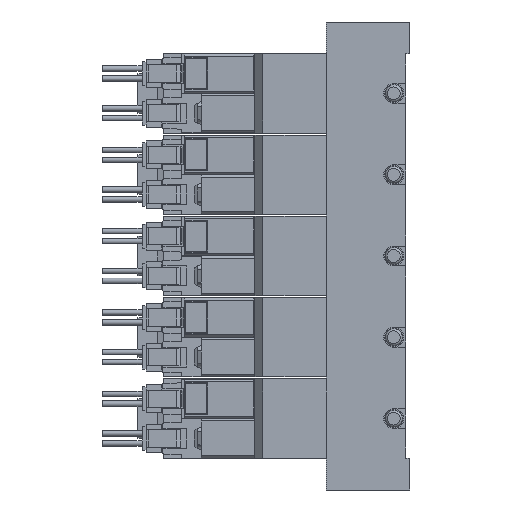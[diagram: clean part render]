
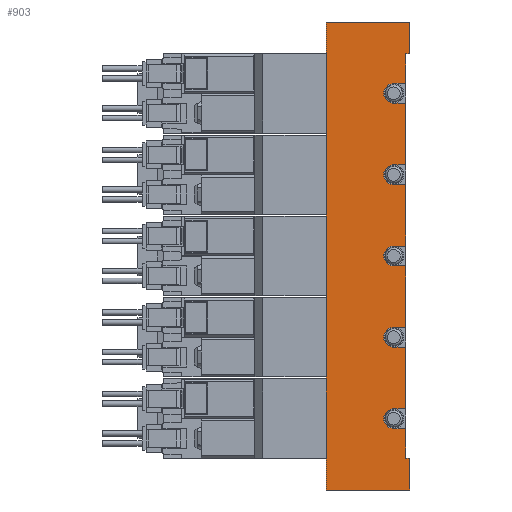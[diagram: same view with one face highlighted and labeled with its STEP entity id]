
A CAD part, left-side view. The second image highlights one B-rep face of the part: STEP entity #903.
In plain terms, the highlighted planar face has unit normal (-1, 0, 0) as drawn and (1, 0, 0) by its records, which use the part's own axes.
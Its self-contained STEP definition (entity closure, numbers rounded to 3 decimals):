
#903=ADVANCED_FACE('',(#1914),#1915,.F.);
#1914=FACE_OUTER_BOUND('',#2991,.T.);
#1915=PLANE('',#2992);
#2991=EDGE_LOOP('',(#6532,#6533,#6534,#6535,#6536,#6537,#6538,#6539,#6540,#6541,#6542,#6543,#6544,#6545,#6546,#6547,#6548,#6549,#6550,#6551,#6552,#6553,#6554,#6555,#6556,#6557,#6558,#6559));
#2992=AXIS2_PLACEMENT_3D('',#6560,#6561,#6562);
#6532=ORIENTED_EDGE('',*,*,#7924,.T.);
#6533=ORIENTED_EDGE('',*,*,#7925,.T.);
#6534=ORIENTED_EDGE('',*,*,#7917,.F.);
#6535=ORIENTED_EDGE('',*,*,#7856,.F.);
#6536=ORIENTED_EDGE('',*,*,#7926,.T.);
#6537=ORIENTED_EDGE('',*,*,#7827,.T.);
#6538=ORIENTED_EDGE('',*,*,#7927,.T.);
#6539=ORIENTED_EDGE('',*,*,#7836,.F.);
#6540=ORIENTED_EDGE('',*,*,#7874,.F.);
#6541=ORIENTED_EDGE('',*,*,#7928,.F.);
#6542=ORIENTED_EDGE('',*,*,#7929,.T.);
#6543=ORIENTED_EDGE('',*,*,#7930,.F.);
#6544=ORIENTED_EDGE('',*,*,#7931,.F.);
#6545=ORIENTED_EDGE('',*,*,#7882,.F.);
#6546=ORIENTED_EDGE('',*,*,#7932,.T.);
#6547=ORIENTED_EDGE('',*,*,#7785,.F.);
#6548=ORIENTED_EDGE('',*,*,#7912,.F.);
#6549=ORIENTED_EDGE('',*,*,#7859,.F.);
#6550=ORIENTED_EDGE('',*,*,#7933,.T.);
#6551=ORIENTED_EDGE('',*,*,#7832,.F.);
#6552=ORIENTED_EDGE('',*,*,#7915,.F.);
#6553=ORIENTED_EDGE('',*,*,#7868,.F.);
#6554=ORIENTED_EDGE('',*,*,#7934,.T.);
#6555=ORIENTED_EDGE('',*,*,#7864,.F.);
#6556=ORIENTED_EDGE('',*,*,#7935,.F.);
#6557=ORIENTED_EDGE('',*,*,#7936,.F.);
#6558=ORIENTED_EDGE('',*,*,#7937,.T.);
#6559=ORIENTED_EDGE('',*,*,#7938,.T.);
#6560=CARTESIAN_POINT('',(17.5,1.0,59.0));
#6561=DIRECTION('',(-1.0,0.0,0.0));
#6562=DIRECTION('',(0.0,0.0,1.0));
#7785=EDGE_CURVE('',#9592,#9593,#9594,.T.);
#7827=EDGE_CURVE('',#9673,#9670,#9674,.T.);
#7832=EDGE_CURVE('',#9682,#9683,#9684,.T.);
#7836=EDGE_CURVE('',#9689,#9690,#9691,.T.);
#7856=EDGE_CURVE('',#9726,#9728,#9729,.T.);
#7859=EDGE_CURVE('',#9733,#9734,#9735,.T.);
#7864=EDGE_CURVE('',#9743,#9744,#9745,.T.);
#7868=EDGE_CURVE('',#9749,#9750,#9751,.T.);
#7874=EDGE_CURVE('',#9758,#9689,#9760,.T.);
#7882=EDGE_CURVE('',#9772,#9773,#9774,.T.);
#7912=EDGE_CURVE('',#9734,#9592,#9825,.T.);
#7915=EDGE_CURVE('',#9750,#9682,#9828,.T.);
#7917=EDGE_CURVE('',#9728,#9829,#9831,.T.);
#7924=EDGE_CURVE('',#9841,#9842,#9843,.T.);
#7925=EDGE_CURVE('',#9842,#9829,#9844,.T.);
#7926=EDGE_CURVE('',#9726,#9673,#9845,.T.);
#7927=EDGE_CURVE('',#9670,#9690,#9846,.T.);
#7928=EDGE_CURVE('',#9847,#9758,#9848,.T.);
#7929=EDGE_CURVE('',#9847,#9849,#9850,.T.);
#7930=EDGE_CURVE('',#9851,#9849,#9852,.T.);
#7931=EDGE_CURVE('',#9773,#9851,#9853,.T.);
#7932=EDGE_CURVE('',#9772,#9593,#9854,.T.);
#7933=EDGE_CURVE('',#9733,#9683,#9855,.T.);
#7934=EDGE_CURVE('',#9749,#9744,#9856,.T.);
#7935=EDGE_CURVE('',#9857,#9743,#9858,.T.);
#7936=EDGE_CURVE('',#9859,#9857,#9860,.T.);
#7937=EDGE_CURVE('',#9859,#9861,#9862,.T.);
#7938=EDGE_CURVE('',#9861,#9841,#9863,.T.);
#9592=VERTEX_POINT('',#12578);
#9593=VERTEX_POINT('',#12579);
#9594=LINE('',#12580,#12581);
#9670=VERTEX_POINT('',#12843);
#9673=VERTEX_POINT('',#12847);
#9674=LINE('',#12848,#12849);
#9682=VERTEX_POINT('',#12861);
#9683=VERTEX_POINT('',#12862);
#9684=LINE('',#12863,#12864);
#9689=VERTEX_POINT('',#12872);
#9690=VERTEX_POINT('',#12873);
#9691=LINE('',#12874,#12875);
#9726=VERTEX_POINT('',#12917);
#9728=VERTEX_POINT('',#12920);
#9729=LINE('',#12921,#12922);
#9733=VERTEX_POINT('',#12927);
#9734=VERTEX_POINT('',#12928);
#9735=LINE('',#12929,#12930);
#9743=VERTEX_POINT('',#12942);
#9744=VERTEX_POINT('',#12943);
#9745=LINE('',#12944,#12945);
#9749=VERTEX_POINT('',#12952);
#9750=VERTEX_POINT('',#12953);
#9751=LINE('',#12954,#12955);
#9758=VERTEX_POINT('',#12965);
#9760=CIRCLE('',#12968,2.5);
#9772=VERTEX_POINT('',#12983);
#9773=VERTEX_POINT('',#12984);
#9774=LINE('',#12985,#12986);
#9825=CIRCLE('',#13050,2.5);
#9828=CIRCLE('',#13053,2.5);
#9829=VERTEX_POINT('',#13054);
#9831=LINE('',#13057,#13058);
#9841=VERTEX_POINT('',#13069);
#9842=VERTEX_POINT('',#13070);
#9843=LINE('',#13071,#13072);
#9844=LINE('',#13073,#13074);
#9845=LINE('',#13075,#13076);
#9846=LINE('',#13077,#13078);
#9847=VERTEX_POINT('',#13079);
#9848=LINE('',#13080,#13081);
#9849=VERTEX_POINT('',#13082);
#9850=LINE('',#13083,#13084);
#9851=VERTEX_POINT('',#13085);
#9852=LINE('',#13086,#13087);
#9853=CIRCLE('',#13088,2.5);
#9854=LINE('',#13089,#13090);
#9855=LINE('',#13091,#13092);
#9856=LINE('',#13093,#13094);
#9857=VERTEX_POINT('',#13095);
#9858=CIRCLE('',#13096,2.5);
#9859=VERTEX_POINT('',#13097);
#9860=LINE('',#13098,#13099);
#9861=VERTEX_POINT('',#13100);
#9862=LINE('',#13101,#13102);
#9863=LINE('',#13103,#13104);
#12578=CARTESIAN_POINT('',(17.5,4.0,2.5));
#12579=CARTESIAN_POINT('',(17.5,1.0,2.5));
#12580=CARTESIAN_POINT('',(17.5,1.0,2.5));
#12581=VECTOR('',#14349,1.0);
#12843=CARTESIAN_POINT('',(17.5,1.0,51.0));
#12847=CARTESIAN_POINT('',(17.5,0.0,51.0));
#12848=CARTESIAN_POINT('',(17.5,0.0,51.0));
#12849=VECTOR('',#14433,1.0);
#12861=CARTESIAN_POINT('',(17.5,4.0,-18.0));
#12862=CARTESIAN_POINT('',(17.5,1.0,-18.0));
#12863=CARTESIAN_POINT('',(17.5,1.0,-18.0));
#12864=VECTOR('',#14438,1.0);
#12872=CARTESIAN_POINT('',(17.5,4.0,43.5));
#12873=CARTESIAN_POINT('',(17.5,1.0,43.5));
#12874=CARTESIAN_POINT('',(17.5,1.0,43.5));
#12875=VECTOR('',#14442,1.0);
#12917=CARTESIAN_POINT('',(17.5,0.0,59.0));
#12920=CARTESIAN_POINT('',(17.5,21.0,59.0));
#12921=CARTESIAN_POINT('',(17.5,1.0,59.0));
#12922=VECTOR('',#14481,1.0);
#12927=CARTESIAN_POINT('',(17.5,1.0,-2.5));
#12928=CARTESIAN_POINT('',(17.5,4.0,-2.5));
#12929=CARTESIAN_POINT('',(17.5,1.0,-2.5));
#12930=VECTOR('',#14486,1.0);
#12942=CARTESIAN_POINT('',(17.5,4.0,-38.5));
#12943=CARTESIAN_POINT('',(17.5,1.0,-38.5));
#12944=CARTESIAN_POINT('',(17.5,1.0,-38.5));
#12945=VECTOR('',#14491,1.0);
#12952=CARTESIAN_POINT('',(17.5,1.0,-23.0));
#12953=CARTESIAN_POINT('',(17.5,4.0,-23.0));
#12954=CARTESIAN_POINT('',(17.5,1.0,-23.0));
#12955=VECTOR('',#14495,1.0);
#12965=CARTESIAN_POINT('',(17.5,4.0,38.5));
#12968=AXIS2_PLACEMENT_3D('',#14503,#14504,#14505);
#12983=CARTESIAN_POINT('',(17.5,1.0,18.0));
#12984=CARTESIAN_POINT('',(17.5,4.0,18.0));
#12985=CARTESIAN_POINT('',(17.5,1.0,18.0));
#12986=VECTOR('',#14521,1.0);
#13050=AXIS2_PLACEMENT_3D('',#14583,#14584,#14585);
#13053=AXIS2_PLACEMENT_3D('',#14592,#14593,#14594);
#13054=CARTESIAN_POINT('',(17.5,21.0,-59.0));
#13057=CARTESIAN_POINT('',(17.5,21.0,59.0));
#13058=VECTOR('',#14596,1.0);
#13069=CARTESIAN_POINT('',(17.5,0.0,-51.0));
#13070=CARTESIAN_POINT('',(17.5,0.0,-59.0));
#13071=CARTESIAN_POINT('',(17.5,0.0,-51.0));
#13072=VECTOR('',#14613,1.0);
#13073=CARTESIAN_POINT('',(17.5,1.0,-59.0));
#13074=VECTOR('',#14614,1.0);
#13075=CARTESIAN_POINT('',(17.5,0.0,59.0));
#13076=VECTOR('',#14615,1.0);
#13077=CARTESIAN_POINT('',(17.5,1.0,59.0));
#13078=VECTOR('',#14616,1.0);
#13079=CARTESIAN_POINT('',(17.5,1.0,38.5));
#13080=CARTESIAN_POINT('',(17.5,1.0,38.5));
#13081=VECTOR('',#14617,1.0);
#13082=CARTESIAN_POINT('',(17.5,1.0,23.0));
#13083=CARTESIAN_POINT('',(17.5,1.0,59.0));
#13084=VECTOR('',#14618,1.0);
#13085=CARTESIAN_POINT('',(17.5,4.0,23.0));
#13086=CARTESIAN_POINT('',(17.5,1.0,23.0));
#13087=VECTOR('',#14619,1.0);
#13088=AXIS2_PLACEMENT_3D('',#14620,#14621,#14622);
#13089=CARTESIAN_POINT('',(17.5,1.0,59.0));
#13090=VECTOR('',#14623,1.0);
#13091=CARTESIAN_POINT('',(17.5,1.0,59.0));
#13092=VECTOR('',#14624,1.0);
#13093=CARTESIAN_POINT('',(17.5,1.0,59.0));
#13094=VECTOR('',#14625,1.0);
#13095=CARTESIAN_POINT('',(17.5,4.0,-43.5));
#13096=AXIS2_PLACEMENT_3D('',#14626,#14627,#14628);
#13097=CARTESIAN_POINT('',(17.5,1.0,-43.5));
#13098=CARTESIAN_POINT('',(17.5,1.0,-43.5));
#13099=VECTOR('',#14629,1.0);
#13100=CARTESIAN_POINT('',(17.5,1.0,-51.0));
#13101=CARTESIAN_POINT('',(17.5,1.0,59.0));
#13102=VECTOR('',#14630,1.0);
#13103=CARTESIAN_POINT('',(17.5,4.0,-51.0));
#13104=VECTOR('',#14631,1.0);
#14349=DIRECTION('',(0.0,-1.0,0.0));
#14433=DIRECTION('',(0.0,1.0,0.0));
#14438=DIRECTION('',(0.0,-1.0,0.0));
#14442=DIRECTION('',(0.0,-1.0,0.0));
#14481=DIRECTION('',(0.0,1.0,0.0));
#14486=DIRECTION('',(0.0,1.0,0.0));
#14491=DIRECTION('',(0.0,-1.0,0.0));
#14495=DIRECTION('',(0.0,1.0,0.0));
#14503=CARTESIAN_POINT('',(17.5,4.0,41.0));
#14504=DIRECTION('',(1.0,0.0,-0.0));
#14505=DIRECTION('',(0.0,0.0,1.0));
#14521=DIRECTION('',(0.0,1.0,0.0));
#14583=CARTESIAN_POINT('',(17.5,4.0,0.0));
#14584=DIRECTION('',(1.0,0.0,-0.0));
#14585=DIRECTION('',(0.0,0.0,1.0));
#14592=CARTESIAN_POINT('',(17.5,4.0,-20.5));
#14593=DIRECTION('',(1.0,0.0,-0.0));
#14594=DIRECTION('',(0.0,0.0,1.0));
#14596=DIRECTION('',(0.0,0.0,-1.0));
#14613=DIRECTION('',(0.0,0.0,-1.0));
#14614=DIRECTION('',(0.0,1.0,0.0));
#14615=DIRECTION('',(0.0,0.0,-1.0));
#14616=DIRECTION('',(0.0,0.0,-1.0));
#14617=DIRECTION('',(0.0,1.0,0.0));
#14618=DIRECTION('',(0.0,0.0,-1.0));
#14619=DIRECTION('',(0.0,-1.0,0.0));
#14620=CARTESIAN_POINT('',(17.5,4.0,20.5));
#14621=DIRECTION('',(1.0,0.0,-0.0));
#14622=DIRECTION('',(0.0,0.0,1.0));
#14623=DIRECTION('',(0.0,0.0,-1.0));
#14624=DIRECTION('',(0.0,0.0,-1.0));
#14625=DIRECTION('',(0.0,0.0,-1.0));
#14626=CARTESIAN_POINT('',(17.5,4.0,-41.0));
#14627=DIRECTION('',(1.0,0.0,-0.0));
#14628=DIRECTION('',(0.0,0.0,1.0));
#14629=DIRECTION('',(0.0,1.0,0.0));
#14630=DIRECTION('',(0.0,0.0,-1.0));
#14631=DIRECTION('',(0.0,-1.0,0.0));
